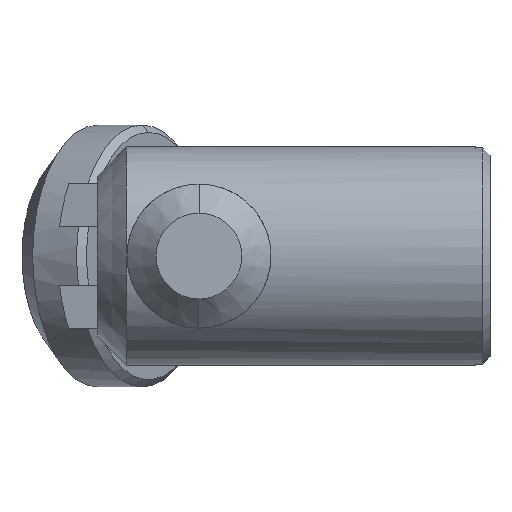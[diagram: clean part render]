
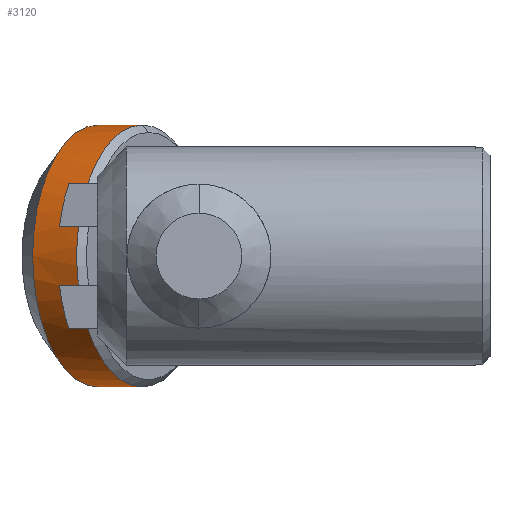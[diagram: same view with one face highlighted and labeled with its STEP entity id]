
A CAD part, front view. The second image highlights one B-rep face of the part: STEP entity #3120.
In plain terms, the highlighted cylindrical face has radius 9 mm (diameter 18 mm), a partial arc.
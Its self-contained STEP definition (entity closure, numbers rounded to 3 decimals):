
#65 = AXIS2_PLACEMENT_3D ( 'NONE', #3326, #3311, #3295 ) ;
#237 = ORIENTED_EDGE ( 'NONE', *, *, #864, .T. ) ;
#282 = LINE ( 'NONE', #950, #3908 ) ;
#398 = ORIENTED_EDGE ( 'NONE', *, *, #2038, .T. ) ;
#414 = AXIS2_PLACEMENT_3D ( 'NONE', #3948, #3933, #3921 ) ;
#416 = VECTOR ( 'NONE', #1991, 1000. ) ;
#493 = EDGE_LOOP ( 'NONE', ( #1241, #2018, #4539, #4076, #3112, #2586, #2579, #777, #398, #237, #810, #4569 ) ) ;
#586 = VERTEX_POINT ( 'NONE', #2468 ) ;
#592 = CARTESIAN_POINT ( 'NONE',  ( -7.491, 12.83, -1.794 ) ) ;
#613 = AXIS2_PLACEMENT_3D ( 'NONE', #1454, #1434, #1422 ) ;
#624 = EDGE_CURVE ( 'NONE', #1051, #3943, #1744, .T. ) ;
#665 = CARTESIAN_POINT ( 'NONE',  ( -6.836, 13.949, 5.205 ) ) ;
#667 = DIRECTION ( 'NONE',  ( 0.001, 0., 1. ) ) ;
#682 = DIRECTION ( 'NONE',  ( -0.866, 0.5, 0.001 ) ) ;
#697 = CARTESIAN_POINT ( 'NONE',  ( -4.4, 21.179, 0.202 ) ) ;
#744 = CARTESIAN_POINT ( 'NONE',  ( -6.849, 13.949, -4.795 ) ) ;
#752 = AXIS2_PLACEMENT_3D ( 'NONE', #2808, #2813, #2817 ) ;
#777 = ORIENTED_EDGE ( 'NONE', *, *, #3671, .T. ) ;
#810 = ORIENTED_EDGE ( 'NONE', *, *, #3020, .T. ) ;
#818 = DIRECTION ( 'NONE',  ( 0.866, -0.5, -0.001 ) ) ;
#858 = AXIS2_PLACEMENT_3D ( 'NONE', #697, #682, #667 ) ;
#864 = EDGE_CURVE ( 'NONE', #3255, #2557, #4649, .T. ) ;
#897 = CARTESIAN_POINT ( 'NONE',  ( -8.135, 14.699, 5.207 ) ) ;
#943 = DIRECTION ( 'NONE',  ( -0.866, 0.5, 0.001 ) ) ;
#950 = CARTESIAN_POINT ( 'NONE',  ( -2.68, 20.179, -8.8 ) ) ;
#1051 = VERTEX_POINT ( 'NONE', #3462 ) ;
#1058 = CIRCLE ( 'NONE', #414, 9. ) ;
#1179 = LINE ( 'NONE', #4136, #1234 ) ;
#1231 = VECTOR ( 'NONE', #3392, 1000. ) ;
#1234 = VECTOR ( 'NONE', #4117, 1000. ) ;
#1236 = VECTOR ( 'NONE', #1552, 1000. ) ;
#1241 = ORIENTED_EDGE ( 'NONE', *, *, #3212, .F. ) ;
#1291 = CIRCLE ( 'NONE', #858, 9. ) ;
#1422 = DIRECTION ( 'NONE',  ( -0.001, 0., -1. ) ) ;
#1434 = DIRECTION ( 'NONE',  ( -0.866, 0.5, 0.001 ) ) ;
#1454 = CARTESIAN_POINT ( 'NONE',  ( -3.101, 20.429, 0.2 ) ) ;
#1457 = EDGE_CURVE ( 'NONE', #1051, #3265, #1859, .T. ) ;
#1478 = CARTESIAN_POINT ( 'NONE',  ( -3.089, 20.429, 9.2 ) ) ;
#1505 = DIRECTION ( 'NONE',  ( -0.866, 0.5, 0.001 ) ) ;
#1545 = DIRECTION ( 'NONE',  ( 0.001, 0., 1. ) ) ;
#1552 = DIRECTION ( 'NONE',  ( 0.866, -0.5, -0.001 ) ) ;
#1578 = LINE ( 'NONE', #2036, #416 ) ;
#1641 = CARTESIAN_POINT ( 'NONE',  ( -2.668, 20.179, 0.2 ) ) ;
#1652 = CARTESIAN_POINT ( 'NONE',  ( -7.486, 12.83, 2.206 ) ) ;
#1744 = CIRCLE ( 'NONE', #2764, 9. ) ;
#1783 = VERTEX_POINT ( 'NONE', #3483 ) ;
#1859 = LINE ( 'NONE', #1989, #1236 ) ;
#1989 = CARTESIAN_POINT ( 'NONE',  ( -8.79, 13.58, -1.792 ) ) ;
#1991 = DIRECTION ( 'NONE',  ( -0.866, 0.5, 0.001 ) ) ;
#2018 = ORIENTED_EDGE ( 'NONE', *, *, #2261, .T. ) ;
#2028 = CARTESIAN_POINT ( 'NONE',  ( -6.121, 22.179, 9.204 ) ) ;
#2036 = CARTESIAN_POINT ( 'NONE',  ( -2.656, 20.179, 9.2 ) ) ;
#2038 = EDGE_CURVE ( 'NONE', #2334, #3255, #3100, .T. ) ;
#2109 = CIRCLE ( 'NONE', #613, 9. ) ;
#2166 = LINE ( 'NONE', #3589, #1231 ) ;
#2226 = EDGE_CURVE ( 'NONE', #3943, #3274, #1179, .T. ) ;
#2261 = EDGE_CURVE ( 'NONE', #4504, #3274, #1058, .T. ) ;
#2334 = VERTEX_POINT ( 'NONE', #3088 ) ;
#2468 = CARTESIAN_POINT ( 'NONE',  ( -8.785, 13.58, 2.208 ) ) ;
#2494 = VERTEX_POINT ( 'NONE', #1652 ) ;
#2537 = CARTESIAN_POINT ( 'NONE',  ( -4.4, 21.179, 0.202 ) ) ;
#2539 = DIRECTION ( 'NONE',  ( 0.866, -0.5, -0.001 ) ) ;
#2541 = DIRECTION ( 'NONE',  ( -0.001, 0., -1. ) ) ;
#2557 = VERTEX_POINT ( 'NONE', #1478 ) ;
#2579 = ORIENTED_EDGE ( 'NONE', *, *, #4006, .F. ) ;
#2586 = ORIENTED_EDGE ( 'NONE', *, *, #3644, .T. ) ;
#2668 = CYLINDRICAL_SURFACE ( 'NONE', #4455, 9. ) ;
#2681 = VECTOR ( 'NONE', #818, 1000. ) ;
#2764 = AXIS2_PLACEMENT_3D ( 'NONE', #2537, #2539, #2541 ) ;
#2808 = CARTESIAN_POINT ( 'NONE',  ( -3.101, 20.429, 0.2 ) ) ;
#2813 = DIRECTION ( 'NONE',  ( -0.866, 0.5, 0.001 ) ) ;
#2817 = DIRECTION ( 'NONE',  ( -0.001, 0., -1. ) ) ;
#3020 = EDGE_CURVE ( 'NONE', #2557, #3571, #1578, .T. ) ;
#3088 = CARTESIAN_POINT ( 'NONE',  ( -8.135, 14.699, 5.207 ) ) ;
#3100 = LINE ( 'NONE', #897, #2681 ) ;
#3112 = ORIENTED_EDGE ( 'NONE', *, *, #1457, .T. ) ;
#3120 = ADVANCED_FACE ( 'NONE', ( #3429 ), #2668, .T. ) ;
#3159 = CIRCLE ( 'NONE', #65, 9. ) ;
#3212 = EDGE_CURVE ( 'NONE', #4504, #1783, #282, .T. ) ;
#3255 = VERTEX_POINT ( 'NONE', #665 ) ;
#3265 = VERTEX_POINT ( 'NONE', #592 ) ;
#3274 = VERTEX_POINT ( 'NONE', #744 ) ;
#3295 = DIRECTION ( 'NONE',  ( -0.001, 0., -1. ) ) ;
#3311 = DIRECTION ( 'NONE',  ( 0.866, -0.5, -0.001 ) ) ;
#3326 = CARTESIAN_POINT ( 'NONE',  ( -6.132, 22.179, 0.204 ) ) ;
#3392 = DIRECTION ( 'NONE',  ( 0.866, -0.5, -0.001 ) ) ;
#3429 = FACE_OUTER_BOUND ( 'NONE', #493, .T. ) ;
#3462 = CARTESIAN_POINT ( 'NONE',  ( -8.79, 13.58, -1.792 ) ) ;
#3483 = CARTESIAN_POINT ( 'NONE',  ( -6.144, 22.179, -8.796 ) ) ;
#3571 = VERTEX_POINT ( 'NONE', #2028 ) ;
#3589 = CARTESIAN_POINT ( 'NONE',  ( -8.785, 13.58, 2.208 ) ) ;
#3644 = EDGE_CURVE ( 'NONE', #3265, #2494, #2109, .T. ) ;
#3663 = CARTESIAN_POINT ( 'NONE',  ( -8.148, 14.699, -4.793 ) ) ;
#3671 = EDGE_CURVE ( 'NONE', #586, #2334, #1291, .T. ) ;
#3908 = VECTOR ( 'NONE', #943, 1000. ) ;
#3921 = DIRECTION ( 'NONE',  ( -0.001, 0., -1. ) ) ;
#3933 = DIRECTION ( 'NONE',  ( -0.866, 0.5, 0.001 ) ) ;
#3943 = VERTEX_POINT ( 'NONE', #3663 ) ;
#3948 = CARTESIAN_POINT ( 'NONE',  ( -3.101, 20.429, 0.2 ) ) ;
#3971 = CARTESIAN_POINT ( 'NONE',  ( -3.113, 20.429, -8.8 ) ) ;
#3977 = EDGE_CURVE ( 'NONE', #3571, #1783, #3159, .T. ) ;
#4006 = EDGE_CURVE ( 'NONE', #586, #2494, #2166, .T. ) ;
#4076 = ORIENTED_EDGE ( 'NONE', *, *, #624, .F. ) ;
#4117 = DIRECTION ( 'NONE',  ( 0.866, -0.5, -0.001 ) ) ;
#4136 = CARTESIAN_POINT ( 'NONE',  ( -8.148, 14.699, -4.793 ) ) ;
#4455 = AXIS2_PLACEMENT_3D ( 'NONE', #1641, #1505, #1545 ) ;
#4504 = VERTEX_POINT ( 'NONE', #3971 ) ;
#4539 = ORIENTED_EDGE ( 'NONE', *, *, #2226, .F. ) ;
#4569 = ORIENTED_EDGE ( 'NONE', *, *, #3977, .T. ) ;
#4649 = CIRCLE ( 'NONE', #752, 9. ) ;
